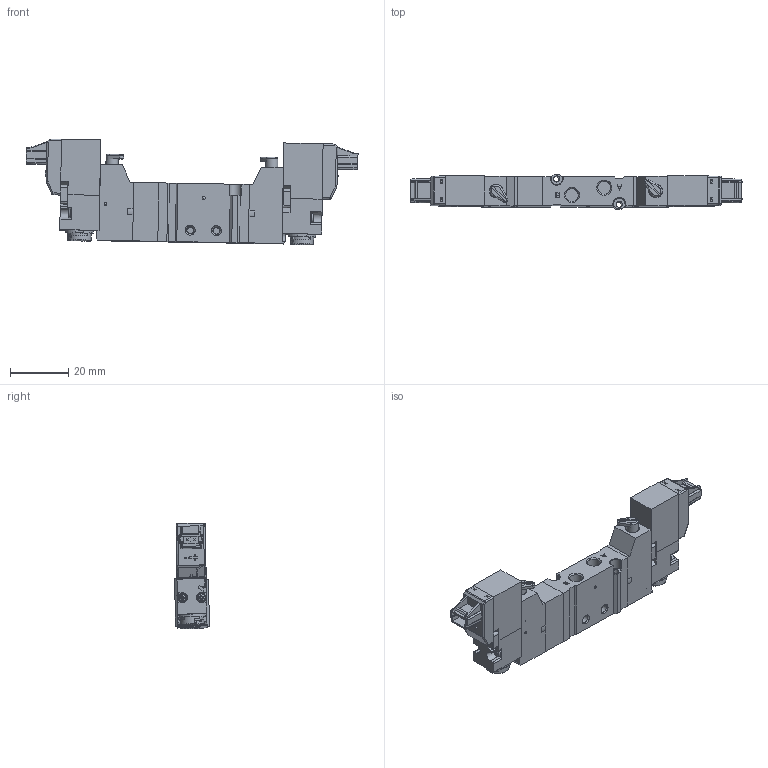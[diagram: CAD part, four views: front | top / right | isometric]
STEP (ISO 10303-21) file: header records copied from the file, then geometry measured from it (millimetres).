
FILE_DESCRIPTION(/* description */ (''),/* implementation_level */ '2;1');
FILE_NAME(/* name */ 'W:\技術グループ\Winovation\Winovation Projects\ADEX Valve in-line\ADEX Plus 3D CAD\P2A05RS\P2A05R※35-1P-M5_Shrinkwrap_1.stp',/* time_stamp */ '2015-01-05T16:07:25+09:00',/* author */ ('hm161442'),/* organization */ (''),/* preprocessor_version */ 'ST-DEVELOPER v15.2',/* originating_system */ 'Autodesk Inventor 2014',/* authorisation */ '');
FILE_SCHEMA (('AUTOMOTIVE_DESIGN { 1 0 10303 214 3 1 1 }'));
Products named in the file (1): P2A05R※35-1P-M5_Shrinkwrap_1
Bounding box: 113.57 x 11.89 x 36.21 mm (x, y, z)
Volume: 19704 mm3; surface area: 17413.4 mm2
Topology: 3 solids, 5 shells, 2434 faces, 6341 edges, 4008 vertices
Faces by surface type: plane 1400, cylinder 573, bspline 142, cone 130, torus 118, sphere 71
Full cylindrical faces by diameter (mm): 0.73 x2, 0.85 x2, 1 x22, 1.1 x2, 1.2 x2, 1.3 x2, 1.4 x4, 1.5 x4, 1.6 x4, 1.8 x4, 2 x2, 2.1 x2, 2.3 x6, 2.45 x2, 2.5 x2, 2.7 x4, 2.8 x2, 3 x2, 3.4 x2, 3.5 x10, 3.8 x4, 4 x2, 4.2 x2, 4.3 x2, 4.4 x9, 4.5 x6, 4.7 x2, 4.8 x2, 5.1 x2, 5.4 x6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
Entity records: 85438 total; most frequent: CARTESIAN_POINT 26129, ORIENTED_EDGE 11746, DIRECTION 11498, EDGE_CURVE 5871, AXIS2_PLACEMENT_3D 4084, VERTEX_POINT 3861, LINE 3330, VECTOR 3330
